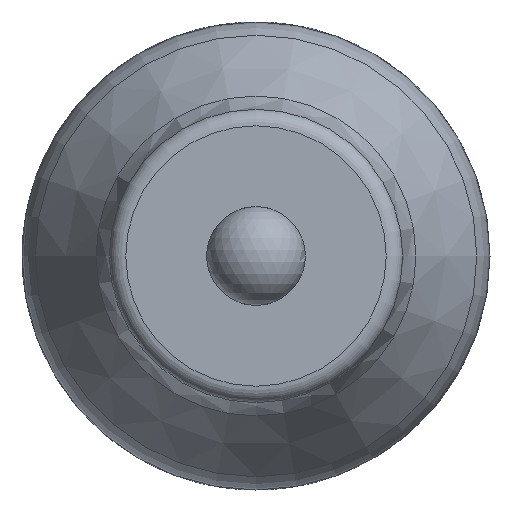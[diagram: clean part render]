
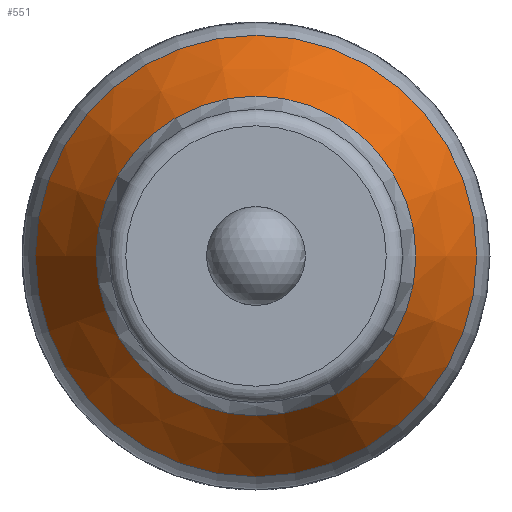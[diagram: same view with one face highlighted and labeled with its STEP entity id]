
A CAD part, front view. The second image highlights one B-rep face of the part: STEP entity #551.
In plain terms, the highlighted conical face has half-angle 30 degrees and reference radius 5.775 mm.
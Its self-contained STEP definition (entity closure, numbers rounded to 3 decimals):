
#520=CARTESIAN_POINT('',(6.698,44.894,0.));
#521=VERTEX_POINT('',#520);
#522=CARTESIAN_POINT('',(0.0,44.894,0.));
#523=DIRECTION('',(0.0,1.0,0.0));
#524=DIRECTION('',(-1.0,0.0,0.0));
#525=AXIS2_PLACEMENT_3D('',#522,#523,#524);
#526=CIRCLE('',#525,6.698);
#527=EDGE_CURVE('',#521,#521,#526,.T.);
#532=CARTESIAN_POINT('',(0.0,43.295,0.0));
#533=DIRECTION('',(0.0,1.0,0.0));
#534=DIRECTION('',(1.0,0.0,0.0));
#535=AXIS2_PLACEMENT_3D('',#532,#533,#534);
#536=CONICAL_SURFACE('',#535,5.775,30.);
#537=ORIENTED_EDGE('',*,*,#527,.F.);
#538=EDGE_LOOP('',(#537));
#539=FACE_OUTER_BOUND('',#538,.T.);
#540=CARTESIAN_POINT('',(4.852,41.696,0.0));
#541=VERTEX_POINT('',#540);
#542=CARTESIAN_POINT('',(0.0,41.696,0.));
#543=DIRECTION('',(0.0,-1.0,0.0));
#544=DIRECTION('',(-1.0,0.0,0.0));
#545=AXIS2_PLACEMENT_3D('',#542,#543,#544);
#546=CIRCLE('',#545,4.852);
#547=EDGE_CURVE('',#541,#541,#546,.T.);
#548=ORIENTED_EDGE('',*,*,#547,.F.);
#549=EDGE_LOOP('',(#548));
#550=FACE_BOUND('',#549,.T.);
#551=ADVANCED_FACE('',(#539,#550),#536,.T.);
